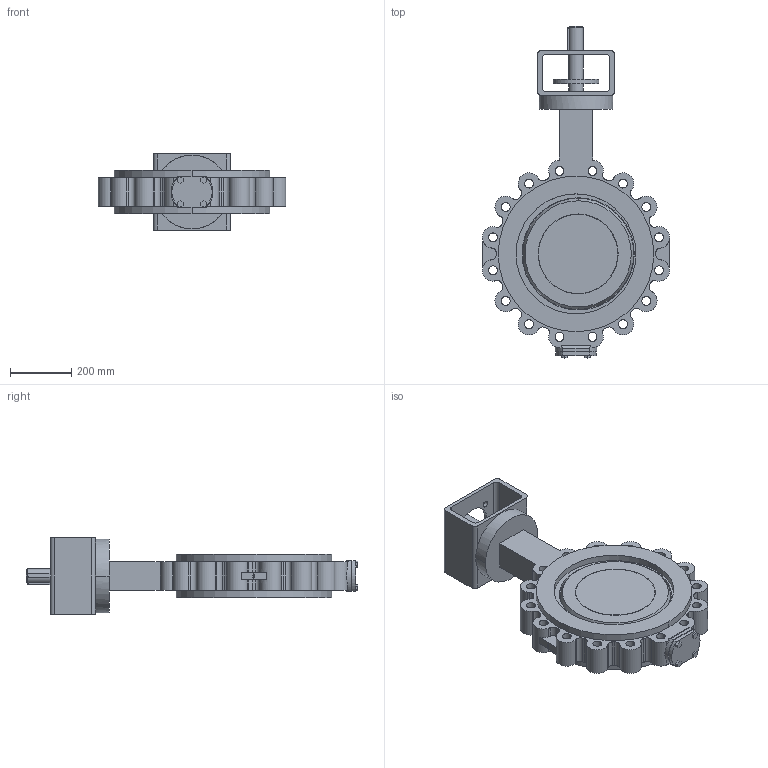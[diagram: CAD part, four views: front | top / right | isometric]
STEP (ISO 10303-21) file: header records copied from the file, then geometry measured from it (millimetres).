
FILE_DESCRIPTION( ( '' ), '1' );
FILE_NAME( 'F:/DE-SHS/TB/OR/04-Sonstiges/daten/files_3d/018_ZETRIX-PN10_freiesWellende/c000006375.stp', '2016-09-01T11:05:22', ( '' ), ( '' ), ' ', ' ', ' ' );
FILE_SCHEMA( ( 'CONFIG_CONTROL_DESIGN' ) );
Length unit declared in the file: millimetre
Products named in the file (1): 1
Bounding box: 609.3 x 1079.7 x 248 mm (x, y, z)
Volume: 29582831.2 mm3; surface area: 1754800.3 mm2
Topology: 1 solids, 1 shells, 308 faces, 856 edges, 570 vertices
Faces by surface type: cylinder 197, plane 103, sphere 4, cone 4
Entity records: 11068 total; most frequent: CARTESIAN_POINT 2661, DIRECTION 1862, ORIENTED_EDGE 1712, EDGE_CURVE 856, AXIS2_PLACEMENT_3D 731, VERTEX_POINT 570, CIRCLE 418, LINE 400
